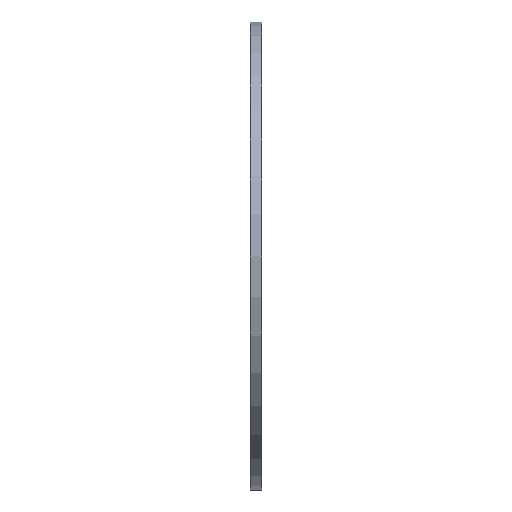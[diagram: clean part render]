
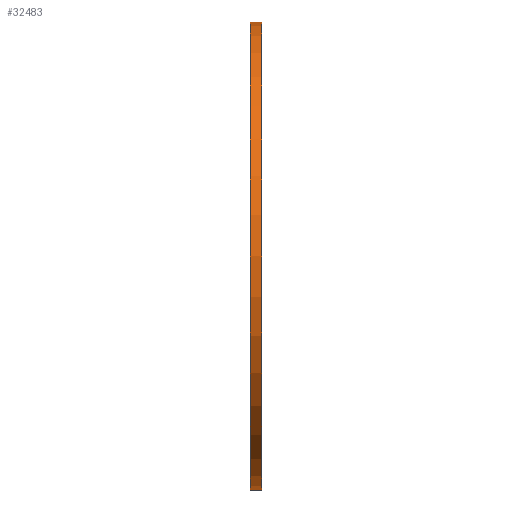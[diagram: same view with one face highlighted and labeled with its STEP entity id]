
A CAD part, left-side view. The second image highlights one B-rep face of the part: STEP entity #32483.
In plain terms, the highlighted cylindrical face has radius 239.09 mm (diameter 478.18 mm), a partial arc.
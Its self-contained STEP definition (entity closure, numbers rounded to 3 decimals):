
#353 = EDGE_CURVE ( 'NONE', #3981, #52363, #3217, .T. ) ;
#785 = VECTOR ( 'NONE', #30930, 1000. ) ;
#1716 = ORIENTED_EDGE ( 'NONE', *, *, #353, .T. ) ;
#1726 = CYLINDRICAL_SURFACE ( 'NONE', #27012, 239.09 ) ;
#1741 = EDGE_CURVE ( 'NONE', #52363, #63647, #15738, .T. ) ;
#3217 = CIRCLE ( 'NONE', #40084, 239.09 ) ;
#3981 = VERTEX_POINT ( 'NONE', #23779 ) ;
#7852 = DIRECTION ( 'NONE',  ( 0., -1., 0. ) ) ;
#8932 = CARTESIAN_POINT ( 'NONE',  ( 0., 0., -239.09 ) ) ;
#14491 = CARTESIAN_POINT ( 'NONE',  ( 0., 12., 0. ) ) ;
#15738 = LINE ( 'NONE', #8932, #785 ) ;
#20261 = DIRECTION ( 'NONE',  ( 0., 0., -1. ) ) ;
#23029 = DIRECTION ( 'NONE',  ( 0., -1., 0. ) ) ;
#23779 = CARTESIAN_POINT ( 'NONE',  ( 0., 12., 239.09 ) ) ;
#24104 = CARTESIAN_POINT ( 'NONE',  ( 0., 0., 0. ) ) ;
#24586 = CIRCLE ( 'NONE', #56854, 239.09 ) ;
#27012 = AXIS2_PLACEMENT_3D ( 'NONE', #28797, #7852, #29854 ) ;
#27103 = ORIENTED_EDGE ( 'NONE', *, *, #1741, .T. ) ;
#28247 = DIRECTION ( 'NONE',  ( 0., -1., 0. ) ) ;
#28797 = CARTESIAN_POINT ( 'NONE',  ( 0., 0., 0. ) ) ;
#29854 = DIRECTION ( 'NONE',  ( 0., 0., -1. ) ) ;
#30930 = DIRECTION ( 'NONE',  ( 0., -1., 0. ) ) ;
#32483 = ADVANCED_FACE ( 'NONE', ( #51909 ), #1726, .T. ) ;
#34775 = VERTEX_POINT ( 'NONE', #40670 ) ;
#40084 = AXIS2_PLACEMENT_3D ( 'NONE', #14491, #69807, #20261 ) ;
#40670 = CARTESIAN_POINT ( 'NONE',  ( 0., 0., 239.09 ) ) ;
#45728 = DIRECTION ( 'NONE',  ( 0., 0., -1. ) ) ;
#46675 = ORIENTED_EDGE ( 'NONE', *, *, #61557, .F. ) ;
#50652 = VECTOR ( 'NONE', #28247, 1000. ) ;
#51909 = FACE_OUTER_BOUND ( 'NONE', #60664, .T. ) ;
#52363 = VERTEX_POINT ( 'NONE', #54392 ) ;
#54392 = CARTESIAN_POINT ( 'NONE',  ( 0., 12., -239.09 ) ) ;
#56854 = AXIS2_PLACEMENT_3D ( 'NONE', #24104, #23029, #45728 ) ;
#57924 = CARTESIAN_POINT ( 'NONE',  ( 0., 0., -239.09 ) ) ;
#60664 = EDGE_LOOP ( 'NONE', ( #65444, #1716, #27103, #46675 ) ) ;
#60726 = LINE ( 'NONE', #65867, #50652 ) ;
#61557 = EDGE_CURVE ( 'NONE', #34775, #63647, #24586, .T. ) ;
#63647 = VERTEX_POINT ( 'NONE', #57924 ) ;
#65444 = ORIENTED_EDGE ( 'NONE', *, *, #67453, .F. ) ;
#65867 = CARTESIAN_POINT ( 'NONE',  ( 0., 0., 239.09 ) ) ;
#67453 = EDGE_CURVE ( 'NONE', #3981, #34775, #60726, .T. ) ;
#69807 = DIRECTION ( 'NONE',  ( 0., -1., 0. ) ) ;
